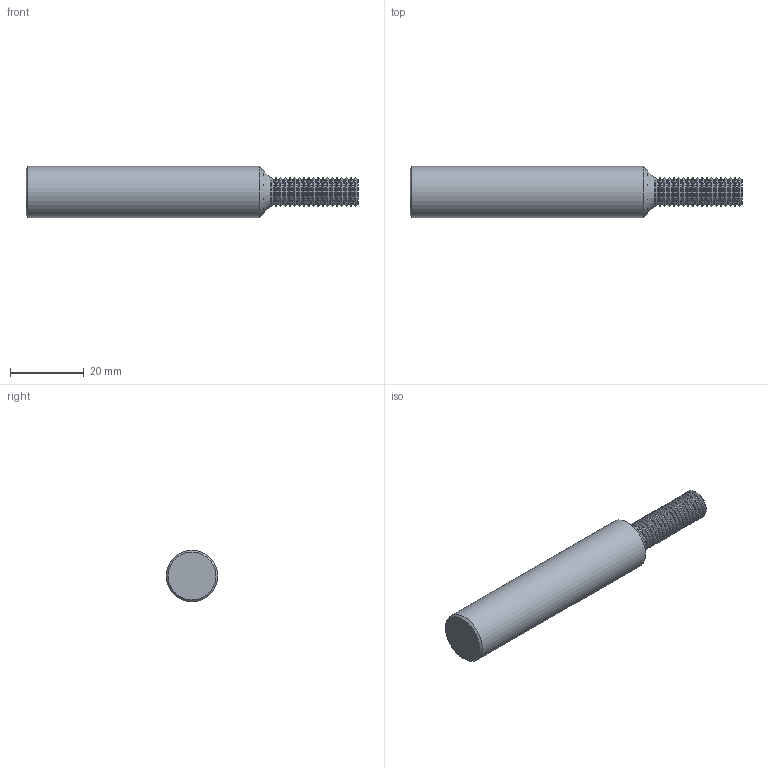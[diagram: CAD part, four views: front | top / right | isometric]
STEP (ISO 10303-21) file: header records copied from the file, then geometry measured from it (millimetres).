
FILE_DESCRIPTION(/* description */ (''),/* implementation_level */ '2;1');
FILE_NAME(/* name */ '00036455-TDM',/* time_stamp */ '2024-02-21T08:30:46+01:00',/* author */ (''),/* organization */ (''),/* preprocessor_version */ 'ST-DEVELOPER v16.5',/* originating_system */ 'HiCAD 2017 2201.0 Build 268',/* authorisation */ '');
FILE_SCHEMA (('AUTOMOTIVE_DESIGN { 1 0 10303 214 1 1 1 1 }'));
Length unit declared in the file: millimetre
Products named in the file (3): Root; ROTATIONSTEIL_3
Assembly tree (2 placements, depth 3):
  Root
    ROTATIONSTEIL_3
      ROTATIONSTEIL_3
Bounding box: 90 x 14 x 14 mm (x, y, z)
Volume: 10973.2 mm3; surface area: 4157.1 mm2
Topology: 2 solids, 2 shells, 120 faces, 237 edges, 121 vertices
Faces by surface type: cone 40, cylinder 39, torus 37, plane 4
Full cylindrical faces by diameter (mm): 6.584 x19, 7.95 x19, 14 x1
Entity records: 3624 total; most frequent: DIRECTION 484, CARTESIAN_POINT 360, AXIS2_PLACEMENT_3D 242, PRESENTATION_STYLE_ASSIGNMENT 238, COLOUR_RGB 238, DRAUGHTING_PRE_DEFINED_CURVE_FONT 236, CURVE_STYLE 236, OVER_RIDING_STYLED_ITEM 236
